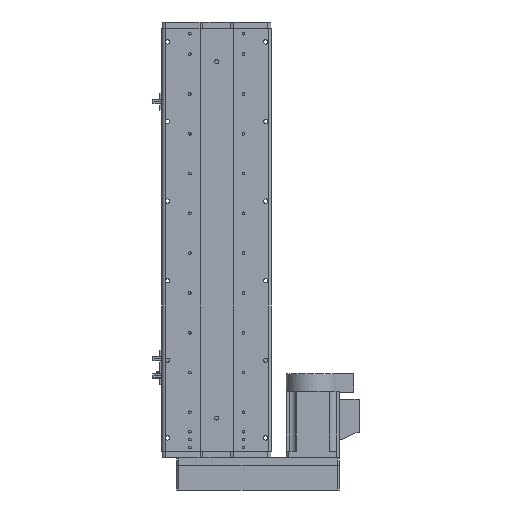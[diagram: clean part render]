
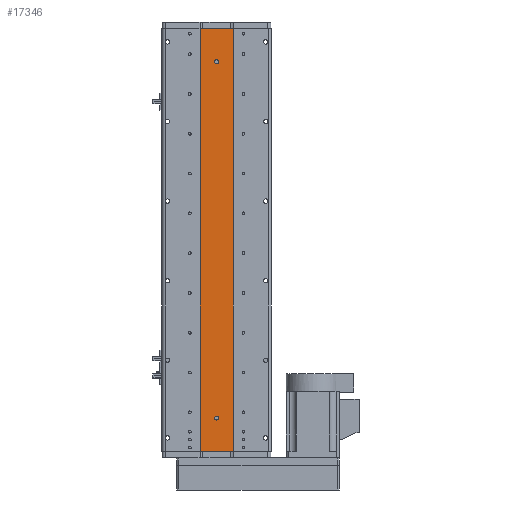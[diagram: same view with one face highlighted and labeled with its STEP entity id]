
A CAD part, front view. The second image highlights one B-rep face of the part: STEP entity #17346.
In plain terms, the highlighted planar face has unit normal (0, -1, 0).
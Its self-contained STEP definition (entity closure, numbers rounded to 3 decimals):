
#739 = LINE ( 'NONE', #7370, #11386 ) ;
#2517 = CARTESIAN_POINT ( 'NONE',  ( 25., 1., -318.5 ) ) ;
#3295 = DIRECTION ( 'NONE',  ( 0., -1., 0. ) ) ;
#3506 = DIRECTION ( 'NONE',  ( 0., 0., -1. ) ) ;
#3522 = FACE_OUTER_BOUND ( 'NONE', #10440, .T. ) ;
#3560 = CARTESIAN_POINT ( 'NONE',  ( 0., 1., 265.5 ) ) ;
#3587 = VERTEX_POINT ( 'NONE', #39177 ) ;
#3719 = DIRECTION ( 'NONE',  ( 0., 0., -1. ) ) ;
#5353 = PLANE ( 'NONE',  #54517 ) ;
#5371 = CARTESIAN_POINT ( 'NONE',  ( 25., 1., 318.5 ) ) ;
#7370 = CARTESIAN_POINT ( 'NONE',  ( -25., 1., 318.5 ) ) ;
#8561 = EDGE_LOOP ( 'NONE', ( #53230, #41670 ) ) ;
#8662 = DIRECTION ( 'NONE',  ( 0., -1., 0. ) ) ;
#9714 = DIRECTION ( 'NONE',  ( 0., 1., 0. ) ) ;
#9860 = DIRECTION ( 'NONE',  ( 1., 0., 0. ) ) ;
#9918 = CARTESIAN_POINT ( 'NONE',  ( 25., 1., 318.5 ) ) ;
#10440 = EDGE_LOOP ( 'NONE', ( #11111, #46074, #17519, #49653 ) ) ;
#10996 = VERTEX_POINT ( 'NONE', #55700 ) ;
#11023 = CARTESIAN_POINT ( 'NONE',  ( -25., 1., -318.5 ) ) ;
#11111 = ORIENTED_EDGE ( 'NONE', *, *, #47861, .T. ) ;
#11386 = VECTOR ( 'NONE', #39089, 1000. ) ;
#12158 = FACE_BOUND ( 'NONE', #8561, .T. ) ;
#12627 = CARTESIAN_POINT ( 'NONE',  ( 0., 1., 271.5 ) ) ;
#13100 = AXIS2_PLACEMENT_3D ( 'NONE', #58156, #30881, #3719 ) ;
#13549 = FACE_BOUND ( 'NONE', #55848, .T. ) ;
#14501 = LINE ( 'NONE', #5371, #37201 ) ;
#15663 = AXIS2_PLACEMENT_3D ( 'NONE', #57950, #30693, #3506 ) ;
#17346 = ADVANCED_FACE ( 'NONE', ( #13549, #12158, #3522 ), #5353, .F. ) ;
#17519 = ORIENTED_EDGE ( 'NONE', *, *, #19050, .F. ) ;
#17660 = EDGE_CURVE ( 'NONE', #31780, #51681, #28039, .T. ) ;
#17705 = AXIS2_PLACEMENT_3D ( 'NONE', #35789, #8662, #40361 ) ;
#19050 = EDGE_CURVE ( 'NONE', #3587, #10996, #39877, .T. ) ;
#19057 = DIRECTION ( 'NONE',  ( 0., 0., -1. ) ) ;
#22762 = VERTEX_POINT ( 'NONE', #3560 ) ;
#24295 = CIRCLE ( 'NONE', #54226, 3. ) ;
#27081 = EDGE_CURVE ( 'NONE', #51681, #31780, #55983, .T. ) ;
#28039 = CIRCLE ( 'NONE', #15663, 3. ) ;
#30476 = CARTESIAN_POINT ( 'NONE',  ( 0., 1., 268.5 ) ) ;
#30693 = DIRECTION ( 'NONE',  ( 0., -1., 0. ) ) ;
#30881 = DIRECTION ( 'NONE',  ( 0., -1., 0. ) ) ;
#31780 = VERTEX_POINT ( 'NONE', #32866 ) ;
#32866 = CARTESIAN_POINT ( 'NONE',  ( 0., 1., -271.5 ) ) ;
#34808 = CIRCLE ( 'NONE', #13100, 3. ) ;
#35021 = DIRECTION ( 'NONE',  ( 0., 0., -1. ) ) ;
#35637 = VECTOR ( 'NONE', #47941, 1000. ) ;
#35789 = CARTESIAN_POINT ( 'NONE',  ( 0., 1., -268.5 ) ) ;
#37201 = VECTOR ( 'NONE', #19057, 1000. ) ;
#39075 = CARTESIAN_POINT ( 'NONE',  ( 0., 1., -265.5 ) ) ;
#39089 = DIRECTION ( 'NONE',  ( 0., 0., -1. ) ) ;
#39177 = CARTESIAN_POINT ( 'NONE',  ( -25., 1., 318.5 ) ) ;
#39877 = LINE ( 'NONE', #41579, #50571 ) ;
#40361 = DIRECTION ( 'NONE',  ( 0., 0., -1. ) ) ;
#41110 = EDGE_CURVE ( 'NONE', #41149, #22762, #24295, .T. ) ;
#41149 = VERTEX_POINT ( 'NONE', #12627 ) ;
#41579 = CARTESIAN_POINT ( 'NONE',  ( 25., 1., 318.5 ) ) ;
#41670 = ORIENTED_EDGE ( 'NONE', *, *, #27081, .F. ) ;
#42198 = EDGE_CURVE ( 'NONE', #3587, #56071, #739, .T. ) ;
#45429 = CARTESIAN_POINT ( 'NONE',  ( 25., 1., -318.5 ) ) ;
#46074 = ORIENTED_EDGE ( 'NONE', *, *, #57008, .F. ) ;
#46238 = DIRECTION ( 'NONE',  ( 0., 0., 1. ) ) ;
#47736 = LINE ( 'NONE', #2517, #35637 ) ;
#47861 = EDGE_CURVE ( 'NONE', #56071, #57488, #47736, .T. ) ;
#47941 = DIRECTION ( 'NONE',  ( 1., 0., 0. ) ) ;
#48560 = ORIENTED_EDGE ( 'NONE', *, *, #49661, .F. ) ;
#49653 = ORIENTED_EDGE ( 'NONE', *, *, #42198, .T. ) ;
#49661 = EDGE_CURVE ( 'NONE', #22762, #41149, #34808, .T. ) ;
#50571 = VECTOR ( 'NONE', #9860, 1000. ) ;
#51681 = VERTEX_POINT ( 'NONE', #39075 ) ;
#53230 = ORIENTED_EDGE ( 'NONE', *, *, #17660, .F. ) ;
#54226 = AXIS2_PLACEMENT_3D ( 'NONE', #30476, #3295, #35021 ) ;
#54517 = AXIS2_PLACEMENT_3D ( 'NONE', #9918, #9714, #46238 ) ;
#55082 = ORIENTED_EDGE ( 'NONE', *, *, #41110, .F. ) ;
#55700 = CARTESIAN_POINT ( 'NONE',  ( 25., 1., 318.5 ) ) ;
#55848 = EDGE_LOOP ( 'NONE', ( #48560, #55082 ) ) ;
#55983 = CIRCLE ( 'NONE', #17705, 3. ) ;
#56071 = VERTEX_POINT ( 'NONE', #11023 ) ;
#57008 = EDGE_CURVE ( 'NONE', #10996, #57488, #14501, .T. ) ;
#57488 = VERTEX_POINT ( 'NONE', #45429 ) ;
#57950 = CARTESIAN_POINT ( 'NONE',  ( 0., 1., -268.5 ) ) ;
#58156 = CARTESIAN_POINT ( 'NONE',  ( 0., 1., 268.5 ) ) ;
